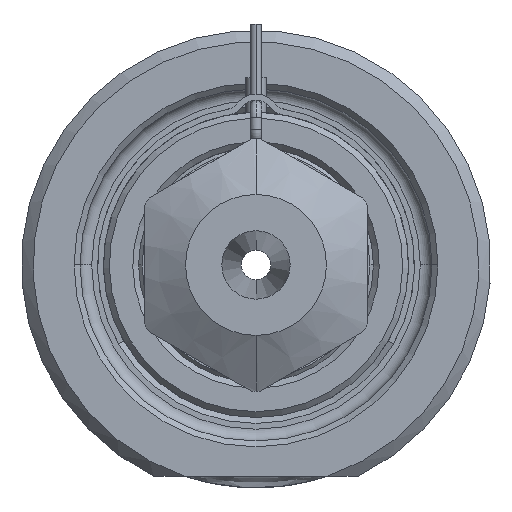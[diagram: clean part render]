
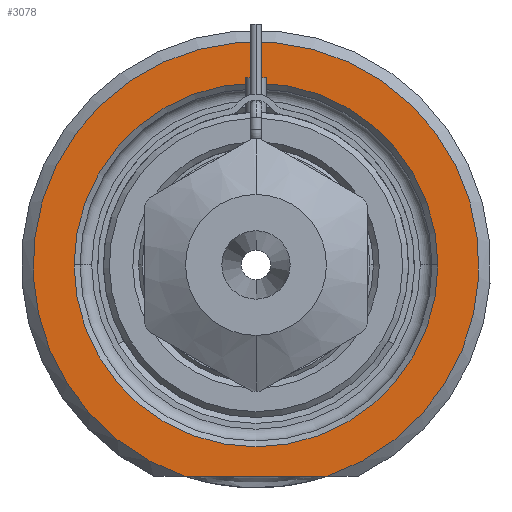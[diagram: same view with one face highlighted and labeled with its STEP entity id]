
A CAD part, front view. The second image highlights one B-rep face of the part: STEP entity #3078.
In plain terms, the highlighted planar face has unit normal (0, -1, 0).
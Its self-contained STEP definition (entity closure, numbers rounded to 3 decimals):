
#1=DIRECTION('',(1.,0.,0.));
#2=VECTOR('',#1,12.166);
#3=CARTESIAN_POINT('',(-6.083,0.,-18.));
#4=LINE('',#3,#2);
#5=CARTESIAN_POINT('',(0.,0.,0.));
#6=DIRECTION('',(0.,1.,0.));
#7=DIRECTION('',(-1.,0.,0.));
#8=AXIS2_PLACEMENT_3D('',#5,#6,#7);
#10=CARTESIAN_POINT('',(0.,0.,0.));
#11=DIRECTION('',(0.,1.,0.));
#12=DIRECTION('',(1.,0.,0.));
#13=AXIS2_PLACEMENT_3D('',#10,#11,#12);
#264=CARTESIAN_POINT('',(0.,0.,0.));
#265=DIRECTION('',(0.,-1.,0.));
#266=DIRECTION('',(0.32,0.,-0.947));
#267=AXIS2_PLACEMENT_3D('',#264,#265,#266);
#2577=CARTESIAN_POINT('',(-15.5,0.,0.));
#2578=CARTESIAN_POINT('',(15.5,0.,0.));
#2579=VERTEX_POINT('',#2577);
#2580=VERTEX_POINT('',#2578);
#2635=CARTESIAN_POINT('',(-6.083,0.,-18.));
#2636=CARTESIAN_POINT('',(6.083,0.,-18.));
#2637=VERTEX_POINT('',#2635);
#2638=VERTEX_POINT('',#2636);
#3061=CARTESIAN_POINT('',(0.,0.,0.));
#3062=DIRECTION('',(0.,-1.,0.));
#3063=DIRECTION('',(1.,0.,0.));
#3064=AXIS2_PLACEMENT_3D('',#3061,#3062,#3063);
#3065=PLANE('',#3064);
#3067=ORIENTED_EDGE('',*,*,#3066,.F.);
#3069=ORIENTED_EDGE('',*,*,#3068,.F.);
#3070=EDGE_LOOP('',(#3067,#3069));
#3071=FACE_OUTER_BOUND('',#3070,.F.);
#3073=ORIENTED_EDGE('',*,*,#3072,.F.);
#3075=ORIENTED_EDGE('',*,*,#3074,.F.);
#3076=EDGE_LOOP('',(#3073,#3075));
#3077=FACE_BOUND('',#3076,.F.);
#3078=ADVANCED_FACE('',(#3071,#3077),#3065,.T.);
#9=CIRCLE('',#8,15.5);
#14=CIRCLE('',#13,15.5);
#268=CIRCLE('',#267,19.);
#3066=EDGE_CURVE('',#2637,#2638,#4,.T.);
#3068=EDGE_CURVE('',#2638,#2637,#268,.T.);
#3072=EDGE_CURVE('',#2579,#2580,#9,.T.);
#3074=EDGE_CURVE('',#2580,#2579,#14,.T.);
